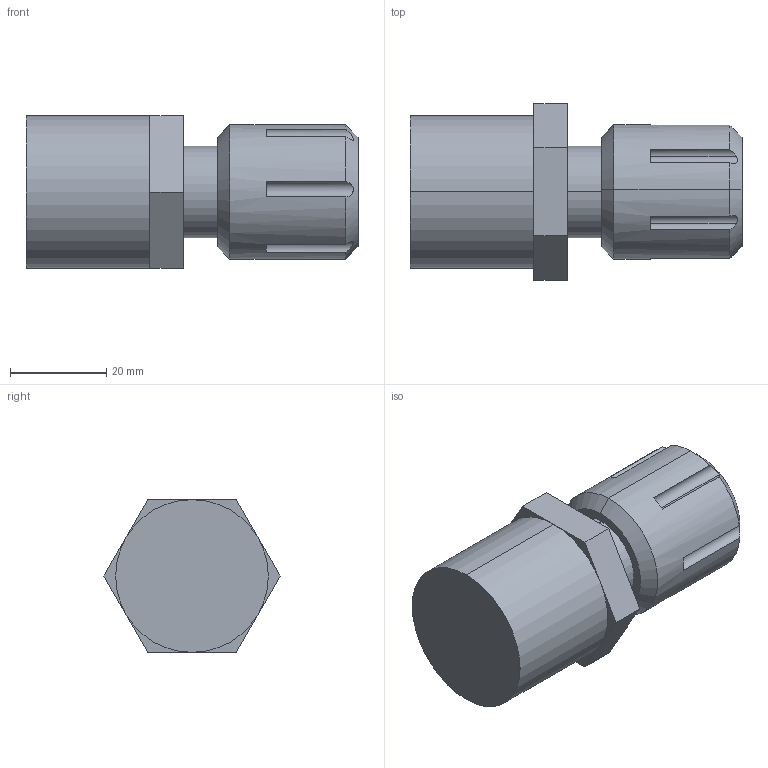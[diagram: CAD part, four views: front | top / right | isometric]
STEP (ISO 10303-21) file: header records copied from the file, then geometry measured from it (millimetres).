
FILE_DESCRIPTION (( 'STEP AP214' ), '1' );
FILE_NAME ('Fitting Flaretek Compatible 12.STEP', '2012-09-21T19:11:47', ( '' ), ( '' ), 'SwSTEP 2.0', 'SolidWorks 2012', '' );
FILE_SCHEMA (( 'AUTOMOTIVE_DESIGN' ));
Length unit declared in the file: inch
Products named in the file (1): Fitting Flaretek Compatible 12
Bounding box: 69.06 x 36.66 x 31.75 mm (x, y, z)
Volume: 44584.9 mm3; surface area: 8901.4 mm2
Topology: 1 solids, 1 shells, 43 faces, 102 edges, 64 vertices
Faces by surface type: plane 23, cylinder 16, cone 4
Entity records: 1652 total; most frequent: CARTESIAN_POINT 360, DIRECTION 226, ORIENTED_EDGE 204, EDGE_CURVE 102, AXIS2_PLACEMENT_3D 88, VERTEX_POINT 64, LINE 50, VECTOR 50
